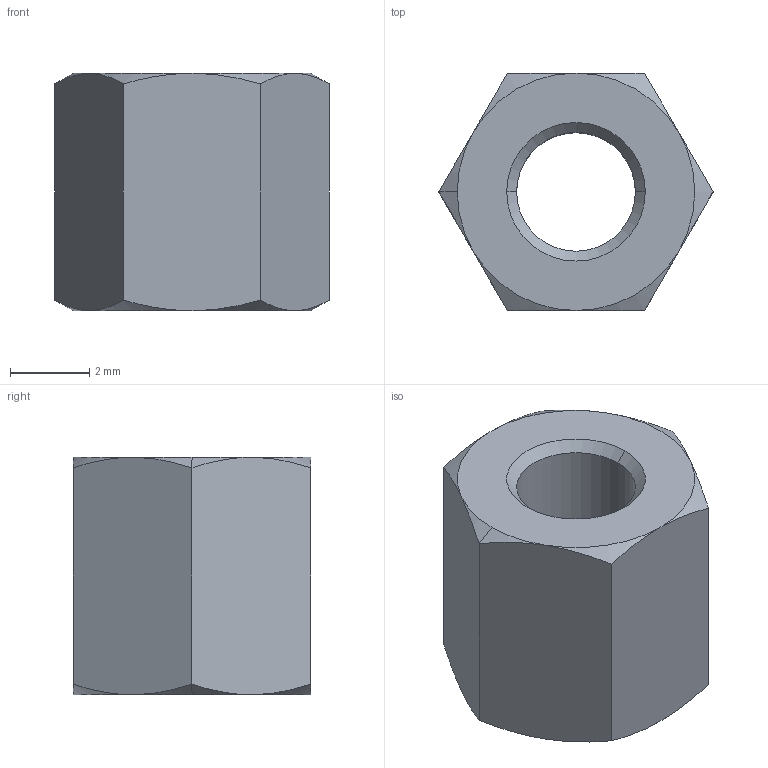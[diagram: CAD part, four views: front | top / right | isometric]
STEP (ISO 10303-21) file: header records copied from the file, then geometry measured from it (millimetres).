
FILE_DESCRIPTION (( 'STEP AP203' ), '1' );
FILE_NAME ('N0503.030-006-NP.step', '2025-02-27T14:40:35', ( '' ), ( '' ), 'SwSTEP 2.0', 'SolidWorks 2019', '' );
FILE_SCHEMA (( 'CONFIG_CONTROL_DESIGN' ));
Length unit declared in the file: millimetre
Products named in the file (1): N0503.030-006-NP
Bounding box: 6.93 x 6 x 6 mm (x, y, z)
Volume: 143.6 mm3; surface area: 224 mm2
Topology: 1 solids, 1 shells, 28 faces, 60 edges, 34 vertices
Faces by surface type: cone 18, plane 8, cylinder 2
Entity records: 875 total; most frequent: CARTESIAN_POINT 223, ORIENTED_EDGE 120, DIRECTION 116, EDGE_CURVE 60, AXIS2_PLACEMENT_3D 51, VERTEX_POINT 34, EDGE_LOOP 30, ADVANCED_FACE 28
